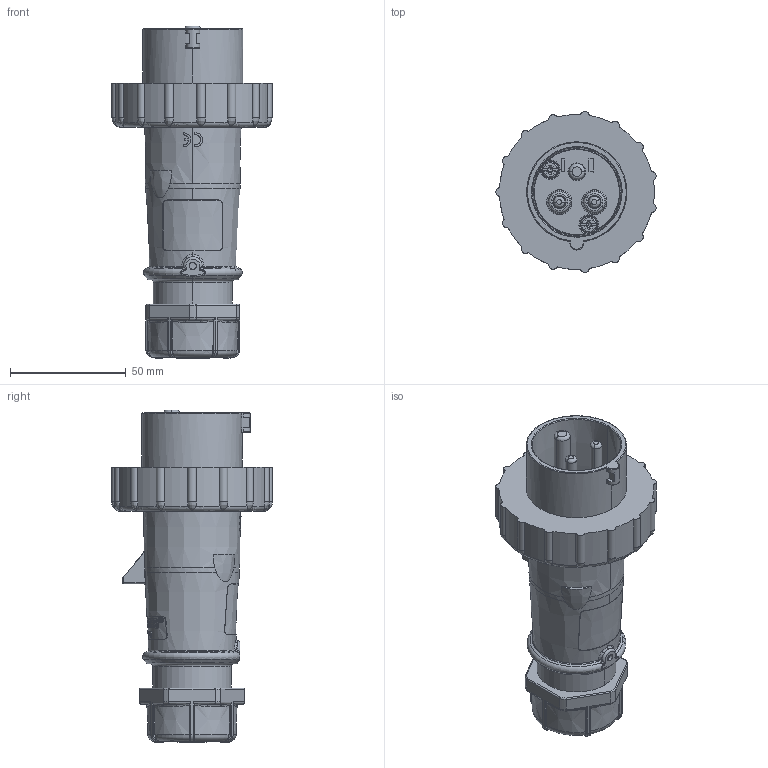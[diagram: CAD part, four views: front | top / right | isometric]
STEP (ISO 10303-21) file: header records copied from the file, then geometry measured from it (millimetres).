
FILE_DESCRIPTION((''),'2;1');
FILE_NAME('1117740_ASM_SW0004','2018-08-01T',('kremer'),('MENNEKES'),'PRO/ENGINEER BY PARAMETRIC TECHNOLOGY CORPORATION, 2015440','PRO/ENGINEER BY PARAMETRIC TECHNOLOGY CORPORATION, 2015440','');
FILE_SCHEMA(('AUTOMOTIVE_DESIGN { 1 0 10303 214 1 1 1 1 }'));
Products named in the file (1): 1117740_ASM_SW0004
Bounding box: 69.28 x 69.63 x 143.5 mm (x, y, z)
Volume: 181241.1 mm3; surface area: 37831.4 mm2
Topology: 1 solids, 1 shells, 1659 faces, 4647 edges, 3042 vertices
Faces by surface type: plane 992, extrusion 242, cylinder 163, cone 94, bspline 86, torus 80, sphere 2
Entity records: 80154 total; most frequent: CARTESIAN_POINT 20204, ORIENTED_EDGE 9286, DIRECTION 6786, EDGE_CURVE 4643, FILL_AREA_STYLE_COLOUR 3088, FILL_AREA_STYLE 3088, SURFACE_STYLE_FILL_AREA 3088, SURFACE_SIDE_STYLE 3088
